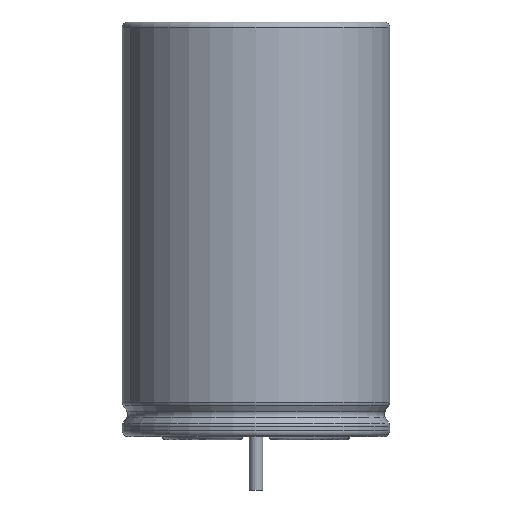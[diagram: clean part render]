
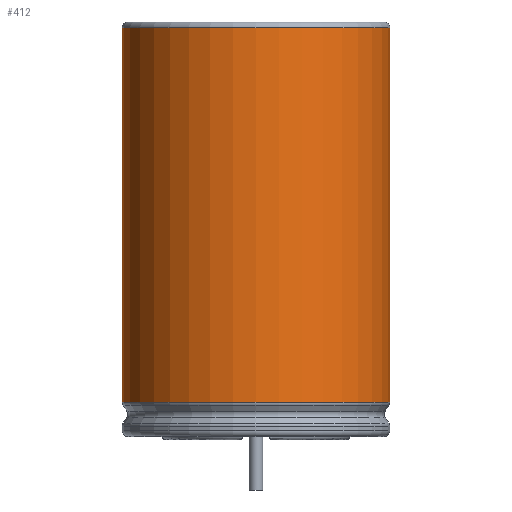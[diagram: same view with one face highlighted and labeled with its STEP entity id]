
A CAD part, left-side view. The second image highlights one B-rep face of the part: STEP entity #412.
In plain terms, the highlighted cylindrical face has radius 8 mm (diameter 16 mm), a partial arc.
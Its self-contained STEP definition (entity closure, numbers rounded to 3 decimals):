
#81 = VERTEX_POINT ( 'NONE', #86 ) ;
#86 = CARTESIAN_POINT ( 'NONE',  ( 7.518, -2.736, 24.667 ) ) ;
#173 = ORIENTED_EDGE ( 'NONE', *, *, #668, .T. ) ;
#307 = CARTESIAN_POINT ( 'NONE',  ( 7.518, -2.736, 2.248 ) ) ;
#333 = EDGE_LOOP ( 'NONE', ( #1909, #562, #392, #173 ) ) ;
#392 = ORIENTED_EDGE ( 'NONE', *, *, #1943, .F. ) ;
#412 = ADVANCED_FACE ( 'NONE', ( #1422 ), #734, .T. ) ;
#463 = CARTESIAN_POINT ( 'NONE',  ( 7.518, 2.736, 2.248 ) ) ;
#527 = CARTESIAN_POINT ( 'NONE',  ( 7.518, 2.736, 2.248 ) ) ;
#562 = ORIENTED_EDGE ( 'NONE', *, *, #982, .F. ) ;
#635 = DIRECTION ( 'NONE',  ( 0., 0., 1. ) ) ;
#668 = EDGE_CURVE ( 'NONE', #1477, #81, #2000, .T. ) ;
#689 = VERTEX_POINT ( 'NONE', #1509 ) ;
#734 = CYLINDRICAL_SURFACE ( 'NONE', #2354, 8. ) ;
#821 = VECTOR ( 'NONE', #635, 1000. ) ;
#982 = EDGE_CURVE ( 'NONE', #2111, #689, #1176, .T. ) ;
#1049 = CARTESIAN_POINT ( 'NONE',  ( 0., 0., 1.5 ) ) ;
#1063 = DIRECTION ( 'NONE',  ( 0., 0., -1. ) ) ;
#1176 = LINE ( 'NONE', #527, #821 ) ;
#1194 = AXIS2_PLACEMENT_3D ( 'NONE', #2034, #1696, #2205 ) ;
#1256 = CIRCLE ( 'NONE', #1267, 8. ) ;
#1267 = AXIS2_PLACEMENT_3D ( 'NONE', #1670, #1761, #2009 ) ;
#1422 = FACE_OUTER_BOUND ( 'NONE', #333, .T. ) ;
#1477 = VERTEX_POINT ( 'NONE', #307 ) ;
#1496 = DIRECTION ( 'NONE',  ( -1., 0., 0. ) ) ;
#1509 = CARTESIAN_POINT ( 'NONE',  ( 7.518, 2.736, 24.667 ) ) ;
#1609 = DIRECTION ( 'NONE',  ( 0., 0., 1. ) ) ;
#1625 = VECTOR ( 'NONE', #1609, 1000. ) ;
#1670 = CARTESIAN_POINT ( 'NONE',  ( 0., 0., 24.667 ) ) ;
#1696 = DIRECTION ( 'NONE',  ( 0., 0., -1. ) ) ;
#1761 = DIRECTION ( 'NONE',  ( 0., 0., -1. ) ) ;
#1779 = EDGE_CURVE ( 'NONE', #81, #689, #1256, .T. ) ;
#1813 = CIRCLE ( 'NONE', #1194, 8. ) ;
#1909 = ORIENTED_EDGE ( 'NONE', *, *, #1779, .T. ) ;
#1943 = EDGE_CURVE ( 'NONE', #1477, #2111, #1813, .T. ) ;
#2000 = LINE ( 'NONE', #2145, #1625 ) ;
#2009 = DIRECTION ( 'NONE',  ( -1., 0., 0. ) ) ;
#2034 = CARTESIAN_POINT ( 'NONE',  ( 0., 0., 2.248 ) ) ;
#2111 = VERTEX_POINT ( 'NONE', #463 ) ;
#2145 = CARTESIAN_POINT ( 'NONE',  ( 7.518, -2.736, 2.248 ) ) ;
#2205 = DIRECTION ( 'NONE',  ( -1., 0., 0. ) ) ;
#2354 = AXIS2_PLACEMENT_3D ( 'NONE', #1049, #1063, #1496 ) ;
